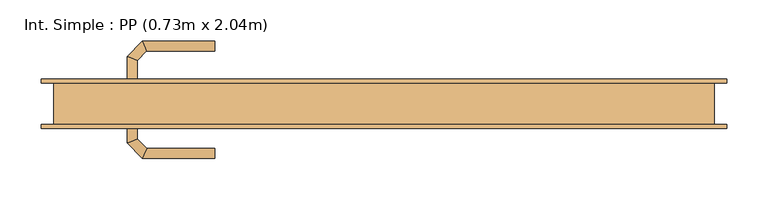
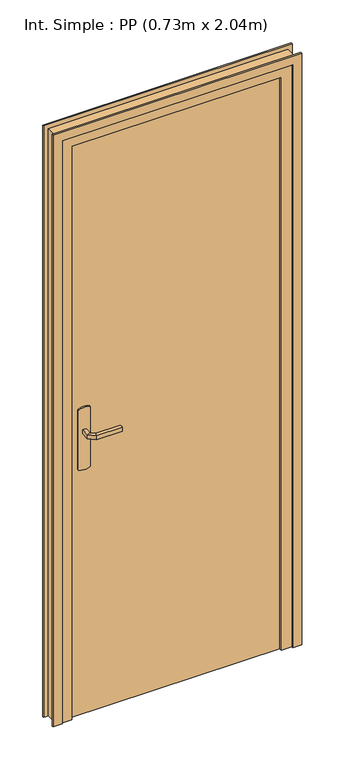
"""IFC4 building model written with IfcOpenShell, lengths in millimetres: door geometry, Int. Simple : PP (0.73m x 2.04m)."""

from ifc_helpers import new_model, si_unit, point, frame, frame_2d, origin, origin_with_axes, place, context, project, spatial, polyline, circle_curve, ellipse_curve, trimmed, segment, composite_curve, outline, extrude, faceted_brep, source, transform, mapped, element, save
from ifc_brep_helpers import plane_surface, cylinder_surface, advanced_brep


def int_simple_pp_0_73m_x_2_04m_980be900(model_context):
    return source(origin(), model_context, "Body", "SolidModel", [
        extrude(outline(composite_curve([segment(trimmed(circle_curve(frame_2d((904.6410162, -340.0)), 40.0), [point((870.0, -360.0))], [point((870.0, -320.0))], False, "CARTESIAN"), True, "CONTINUOUS"), segment(polyline([(870.0, -320.0), (1080.0, -320.0)]), True, "CONTINUOUS"), segment(trimmed(circle_curve(frame_2d((1045.3589838, -340.0)), 40.0), [point((1080.0, -320.0))], [point((1080.0, -360.0))], False, "CARTESIAN"), True, "CONTINUOUS"), segment(polyline([(1080.0, -360.0), (870.0, -360.0)]), True, "CONTINUOUS")], self_intersect=False)), frame((0.0, 25.0, 0.0), z_axis=(0.0, 1.0, 0.0), x_axis=(0.0, 0.0, 1.0)), (0.0, 0.0, 1.0), 5.0),
        extrude(outline(composite_curve([segment(trimmed(circle_curve(frame_2d((1045.3589838, -340.0)), 40.0), [point((1080.0, -320.0))], [point((1080.0, -360.0))], False, "CARTESIAN"), True, "CONTINUOUS"), segment(polyline([(1080.0, -360.0), (870.0, -360.0)]), True, "CONTINUOUS"), segment(trimmed(circle_curve(frame_2d((904.6410162, -340.0)), 40.0), [point((870.0, -360.0))], [point((870.0, -320.0))], False, "CARTESIAN"), True, "CONTINUOUS"), segment(polyline([(870.0, -320.0), (1080.0, -320.0)]), True, "CONTINUOUS")], self_intersect=False)), frame((0.0, -20.0, 0.0), z_axis=(0.0, 1.0, 0.0), x_axis=(0.0, 0.0, 1.0)), (0.0, 0.0, 1.0), 5.0),
        advanced_brep(
        [(-346.0, 30.0, 1007.0), (-346.0, 30.0, 993.0), (-334.0, 30.0, 993.0), (-334.0, 30.0, 1007.0), (-334.0, 52.680388, 1007.0), (-346.0, 57.6509507, 1007.0), (-334.0, 52.680388, 993.0), (-346.0, 57.6509507, 993.0), (-322.6522273, 64.0281607, 1007.0), (-327.62279, 76.0281607, 1007.0), (-322.6522273, 64.0281607, 993.0), (-327.62279, 76.0281607, 993.0), (-239.9813594, 76.0281607, 1007.0), (-239.9813594, 64.0281607, 1007.0), (-239.9813594, 64.0281607, 993.0), (-239.9813594, 76.0281607, 993.0)],
        [
            (0, 1),
            (1, 2, circle_curve(frame((-340.0, 30.0, 1013.0457722), z_axis=(0.0, -1.0, 0.0), x_axis=(1.0, 0.0, 0.0)), 20.9244589)),
            (2, 3),
            (3, 0, circle_curve(frame((-340.0, 30.0, 986.9542278), z_axis=(0.0, -1.0, 0.0), x_axis=(1.0, 0.0, 0.0)), 20.9244589)),
            (3, 4),
            (4, 5, ellipse_curve(frame((-340.0, 55.1656693, 986.9542278), z_axis=(-0.3826834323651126, -0.9238795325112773, 0.0), x_axis=(0.9238795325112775, -0.38268343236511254, 0.0)), 22.6484711, 20.9244589)),
            (5, 0),
            (2, 6),
            (6, 4),
            (1, 7),
            (7, 6, ellipse_curve(frame((-340.0, 55.1656693, 1013.0457722), z_axis=(-0.3826834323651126, -0.9238795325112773, 0.0), x_axis=(0.9238795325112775, -0.38268343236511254, 0.0)), 22.6484711, 20.9244589)),
            (5, 7),
            (4, 8),
            (8, 9, ellipse_curve(frame((-325.1375086, 70.0281607, 986.9542278), z_axis=(-0.9238795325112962, -0.38268343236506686, 0.0), x_axis=(0.3826834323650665, -0.9238795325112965, 0.0)), 22.6484711, 20.9244589)),
            (9, 5),
            (6, 10),
            (10, 8),
            (7, 11),
            (11, 10, ellipse_curve(frame((-325.1375086, 70.0281607, 1013.0457722), z_axis=(-0.9238795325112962, -0.38268343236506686, 0.0), x_axis=(0.3826834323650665, -0.9238795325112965, 0.0)), 22.6484711, 20.9244589)),
            (9, 11),
            (12, 13, circle_curve(frame((-239.9813594, 70.0281607, 986.9542278), z_axis=(1.0, 0.0, 0.0), x_axis=(0.0, -1.0, 0.0)), 20.9244589)),
            (13, 14),
            (14, 15, circle_curve(frame((-239.9813594, 70.0281607, 1013.0457722), z_axis=(1.0, 0.0, 0.0), x_axis=(0.0, -1.0, 0.0)), 20.9244589)),
            (15, 12),
            (8, 13),
            (12, 9),
            (10, 14),
            (11, 15),
        ],
        [
            plane_surface(frame((-349.2195445, 30.0, 1000.0), z_axis=(0.0, -1.0, 0.0), x_axis=(0.0, 0.0, -1.0))),
            cylinder_surface(frame((-340.0, 30.0, 986.9542278), z_axis=(0.0, -1.0, 0.0), x_axis=(1.0, 0.0, 0.0)), 20.9244589),
            plane_surface(frame((-334.0, 30.0, 1007.0), z_axis=(1.0, 0.0, 0.0), x_axis=(0.0, 1.0, 0.0))),
            cylinder_surface(frame((-340.0, 30.0, 1013.0457722), z_axis=(0.0, -1.0, 0.0), x_axis=(1.0, 0.0, 0.0)), 20.9244589),
            plane_surface(frame((-346.0, 30.0, 993.0), z_axis=(-1.0, 0.0, 0.0), x_axis=(0.0, 1.0, 0.0))),
            cylinder_surface(frame((-340.0, 55.1656693, 986.9542278), z_axis=(-0.7071067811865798, -0.7071067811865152, 0.0), x_axis=(0.7071067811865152, -0.7071067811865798, 0.0)), 20.9244589),
            plane_surface(frame((-334.0, 52.680388, 1007.0), z_axis=(0.7071067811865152, -0.7071067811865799, 0.0), x_axis=(0.7071067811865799, 0.7071067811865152, 0.0))),
            cylinder_surface(frame((-340.0, 55.1656693, 1013.0457722), z_axis=(-0.7071067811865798, -0.7071067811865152, 0.0), x_axis=(0.7071067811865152, -0.7071067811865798, 0.0)), 20.9244589),
            plane_surface(frame((-346.0, 57.6509507, 993.0), z_axis=(-0.7071067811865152, 0.7071067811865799, 0.0), x_axis=(0.7071067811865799, 0.7071067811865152, 0.0))),
            plane_surface(frame((-239.9813594, 70.0281607, 990.7804555), z_axis=(1.0, 0.0, 0.0), x_axis=(0.0, -1.0, 0.0))),
            cylinder_surface(frame((-325.1375086, 70.0281607, 986.9542278), z_axis=(-1.0, 0.0, 0.0), x_axis=(0.0, -1.0, 0.0)), 20.9244589),
            plane_surface(frame((-322.6522273, 64.0281607, 1007.0), z_axis=(0.0, -1.0, 0.0), x_axis=(1.0, 0.0, 0.0))),
            cylinder_surface(frame((-325.1375086, 70.0281607, 1013.0457722), z_axis=(-1.0, 0.0, 0.0), x_axis=(0.0, -1.0, 0.0)), 20.9244589),
            plane_surface(frame((-327.62279, 76.0281607, 993.0), z_axis=(0.0, 1.0, 0.0), x_axis=(1.0, 0.0, 0.0))),
        ],
        [
            (0, [[1, 2, 3, 4]]),
            (1, [[5, 6, 7, -4]]),
            (2, [[8, 9, -5, -3]]),
            (3, [[10, 11, -8, -2]]),
            (4, [[-7, 12, -10, -1]]),
            (5, [[13, 14, 15, -6]]),
            (6, [[16, 17, -13, -9]]),
            (7, [[18, 19, -16, -11]]),
            (8, [[-15, 20, -18, -12]]),
            (9, [[21, 22, 23, 24]]),
            (10, [[25, -21, 26, -14]]),
            (11, [[27, -22, -25, -17]]),
            (12, [[28, -23, -27, -19]]),
            (13, [[-26, -24, -28, -20]]),
        ],
    ),
        advanced_brep(
        [(-334.0, -20.0, 993.0), (-346.0, -20.0, 993.0), (-346.0, -20.0, 1007.0), (-334.0, -20.0, 1007.0), (-334.0, -42.4852045, 1007.0), (-334.0, -42.4852045, 993.0), (-346.0, -47.4557673, 1007.0), (-346.0, -47.4557673, 993.0), (-322.5147186, -53.9704859, 1007.0), (-322.5147186, -53.9704859, 993.0), (-327.4852814, -65.9704859, 1007.0), (-327.4852814, -65.9704859, 993.0), (-239.9542163, -53.9704859, 993.0), (-239.9542163, -53.9704859, 1007.0), (-239.9542163, -65.9704859, 1007.0), (-239.9542163, -65.9704859, 993.0)],
        [
            (0, 1, circle_curve(frame((-340.0, -20.0, 1013.0457722), z_axis=(0.0, 1.0, 0.0), x_axis=(-1.0, 0.0, 0.0)), 20.9244589)),
            (1, 2),
            (2, 3, circle_curve(frame((-340.0, -20.0, 986.9542278), z_axis=(0.0, 1.0, 0.0), x_axis=(-1.0, 0.0, 0.0)), 20.9244589)),
            (3, 0),
            (3, 4),
            (4, 5),
            (5, 0),
            (2, 6),
            (6, 4, ellipse_curve(frame((-340.0, -44.9704859, 986.9542278), z_axis=(-0.3826834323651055, 0.9238795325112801, 0.0), x_axis=(0.9238795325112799, 0.3826834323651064, 0.0)), 22.6484711, 20.9244589)),
            (1, 7),
            (7, 6),
            (5, 7, ellipse_curve(frame((-340.0, -44.9704859, 1013.0457722), z_axis=(-0.3826834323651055, 0.9238795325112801, 0.0), x_axis=(0.9238795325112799, 0.3826834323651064, 0.0)), 22.6484711, 20.9244589)),
            (4, 8),
            (8, 9),
            (9, 5),
            (6, 10),
            (10, 8, ellipse_curve(frame((-325.0, -59.9704859, 986.9542278), z_axis=(-0.9238795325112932, 0.382683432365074, 0.0), x_axis=(0.3826834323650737, 0.9238795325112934, 0.0)), 22.6484711, 20.9244589)),
            (7, 11),
            (11, 10),
            (9, 11, ellipse_curve(frame((-325.0, -59.9704859, 1013.0457722), z_axis=(-0.9238795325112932, 0.382683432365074, 0.0), x_axis=(0.3826834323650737, 0.9238795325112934, 0.0)), 22.6484711, 20.9244589)),
            (12, 13),
            (13, 14, circle_curve(frame((-239.9542163, -59.9704859, 986.9542278), z_axis=(1.0, 0.0, 0.0), x_axis=(0.0, -1.0, 0.0)), 20.9244589)),
            (14, 15),
            (15, 12, circle_curve(frame((-239.9542163, -59.9704859, 1013.0457722), z_axis=(1.0, 0.0, 0.0), x_axis=(0.0, -1.0, 0.0)), 20.9244589)),
            (8, 13),
            (12, 9),
            (10, 14),
            (11, 15),
        ],
        [
            plane_surface(frame((-349.2195445, -20.0, 1000.0), z_axis=(0.0, 1.0, 0.0), x_axis=(0.0, 0.0, 1.0))),
            plane_surface(frame((-334.0, -20.0, 993.0), z_axis=(1.0, 0.0, 0.0), x_axis=(0.0, -1.0, 0.0))),
            cylinder_surface(frame((-340.0, -20.0, 986.9542278), z_axis=(0.0, 1.0, 0.0), x_axis=(-1.0, 0.0, 0.0)), 20.9244589),
            plane_surface(frame((-346.0, -20.0, 1007.0), z_axis=(-1.0, 0.0, 0.0), x_axis=(0.0, -1.0, 0.0))),
            cylinder_surface(frame((-340.0, -20.0, 1013.0457722), z_axis=(0.0, 1.0, 0.0), x_axis=(-1.0, 0.0, 0.0)), 20.9244589),
            plane_surface(frame((-334.0, -42.4852045, 993.0), z_axis=(0.7071067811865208, 0.7071067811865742, 0.0), x_axis=(0.7071067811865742, -0.7071067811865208, 0.0))),
            cylinder_surface(frame((-340.0, -44.9704859, 986.9542278), z_axis=(-0.7071067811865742, 0.7071067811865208, 0.0), x_axis=(-0.7071067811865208, -0.7071067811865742, 0.0)), 20.9244589),
            plane_surface(frame((-346.0, -47.4557673, 1007.0), z_axis=(-0.7071067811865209, -0.7071067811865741, 0.0), x_axis=(0.7071067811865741, -0.7071067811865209, 0.0))),
            cylinder_surface(frame((-340.0, -44.9704859, 1013.0457722), z_axis=(-0.7071067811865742, 0.7071067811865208, 0.0), x_axis=(-0.7071067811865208, -0.7071067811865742, 0.0)), 20.9244589),
            plane_surface(frame((-239.9542163, -59.9704859, 990.7804555), z_axis=(1.0, 0.0, 0.0), x_axis=(0.0, -1.0, 0.0))),
            plane_surface(frame((-322.5147186, -53.9704859, 993.0), z_axis=(0.0, 1.0, 0.0), x_axis=(1.0, 0.0, 0.0))),
            cylinder_surface(frame((-325.0, -59.9704859, 986.9542278), z_axis=(-1.0, 0.0, 0.0), x_axis=(0.0, -1.0, 0.0)), 20.9244589),
            plane_surface(frame((-327.4852814, -65.9704859, 1007.0), z_axis=(0.0, -1.0, 0.0), x_axis=(1.0, 0.0, 0.0))),
            cylinder_surface(frame((-325.0, -59.9704859, 1013.0457722), z_axis=(-1.0, 0.0, 0.0), x_axis=(0.0, -1.0, 0.0)), 20.9244589),
        ],
        [
            (0, [[1, 2, 3, 4]]),
            (1, [[5, 6, 7, -4]]),
            (2, [[8, 9, -5, -3]]),
            (3, [[10, 11, -8, -2]]),
            (4, [[-7, 12, -10, -1]]),
            (5, [[13, 14, 15, -6]]),
            (6, [[16, 17, -13, -9]]),
            (7, [[18, 19, -16, -11]]),
            (8, [[-15, 20, -18, -12]]),
            (9, [[21, 22, 23, 24]]),
            (10, [[25, -21, 26, -14]]),
            (11, [[27, -22, -25, -17]]),
            (12, [[28, -23, -27, -19]]),
            (13, [[-26, -24, -28, -20]]),
        ],
    ),
        extrude(outline(polyline([(-400.0, -15.0), (-400.0, 25.0), (330.0, 25.0), (330.0, -15.0), (-400.0, -15.0)])), origin_with_axes(), (0.0, 0.0, 1.0), 2040.0),
        faceted_brep([(-435.0, 25.0, 0.0), (-400.0, 25.0, 0.0), (-400.0, -15.0, 0.0), (-385.0, -15.0, 0.0), (-385.0, -25.0, 0.0), (-435.0, -25.0, 0.0), (-435.0, -25.0, 2075.0), (-435.0, 25.0, 2075.0), (-385.0, -25.0, 2025.0), (315.0, -25.0, 2025.0), (315.0, -25.0, 0.0), (365.0, -25.0, 0.0), (365.0, -25.0, 2075.0), (-385.0, -15.0, 2025.0), (-400.0, -15.0, 2040.0), (330.0, -15.0, 2040.0), (330.0, -15.0, 0.0), (315.0, -15.0, 0.0), (315.0, -15.0, 2025.0), (-400.0, 25.0, 2040.0), (365.0, 25.0, 2075.0), (365.0, 25.0, 0.0), (330.0, 25.0, 0.0), (330.0, 25.0, 2040.0)], [[[0, 1, 2, 3, 4, 5]], [[5, 6, 7, 0]], [[4, 8, 9, 10, 11, 12, 6, 5]], [[3, 13, 8, 4]], [[2, 14, 15, 16, 17, 18, 13, 3]], [[1, 19, 14, 2]], [[0, 7, 20, 21, 22, 23, 19, 1]], [[12, 11, 21, 20]], [[21, 11, 10, 17, 16, 22]], [[18, 17, 10, 9]], [[23, 22, 16, 15]], [[6, 12, 20, 7]], [[13, 18, 9, 8]], [[19, 23, 15, 14]]]),
        extrude(outline(polyline([(0.0, -420.0), (2060.0, -420.0), (2060.0, 350.0), (0.0, 350.0), (0.0, 380.0), (2090.0, 380.0), (2090.0, -450.0), (0.0, -450.0), (0.0, -420.0)])), frame((0.0, 25.0, 0.0), z_axis=(0.0, 1.0, 0.0), x_axis=(0.0, 0.0, 1.0)), (0.0, 0.0, 1.0), 5.0),
        extrude(outline(polyline([(0.0, -420.0), (2060.0, -420.0), (2060.0, 350.0), (0.0, 350.0), (0.0, 380.0), (2090.0, 380.0), (2090.0, -450.0), (0.0, -450.0), (0.0, -420.0)])), frame((0.0, -30.0, 0.0), z_axis=(0.0, 1.0, 0.0), x_axis=(0.0, 0.0, 1.0)), (0.0, 0.0, 1.0), 5.0),
    ])


if __name__ == "__main__":
    model = new_model("IFC4")
    model_context = context("Model", 3, world=origin())
    ifc_project = project(units=[si_unit("LENGTHUNIT", "METRE", prefix="MILLI")], contexts=[model_context])
    site = spatial("IfcSite", under=ifc_project)
    building = spatial("IfcBuilding", under=site)
    placement = place(None, origin())
    int_simple_pp_0_73m_x_2_04m_shape = int_simple_pp_0_73m_x_2_04m_980be900(model_context)
    element("IfcDoor", 1, ObjectType="Int. Simple : PP (0.73m x 2.04m)", at=placement, inside=building, context=model_context, shape_type="MappedRepresentation", body=[
        mapped(int_simple_pp_0_73m_x_2_04m_shape, transform((0.0, 0.0, 0.0), x_axis=(1.0, 0.0, 0.0), y_axis=(0.0, 1.0, 0.0), z_axis=(0.0, 0.0, 1.0))),
    ])
    save(model, "model.ifc")
